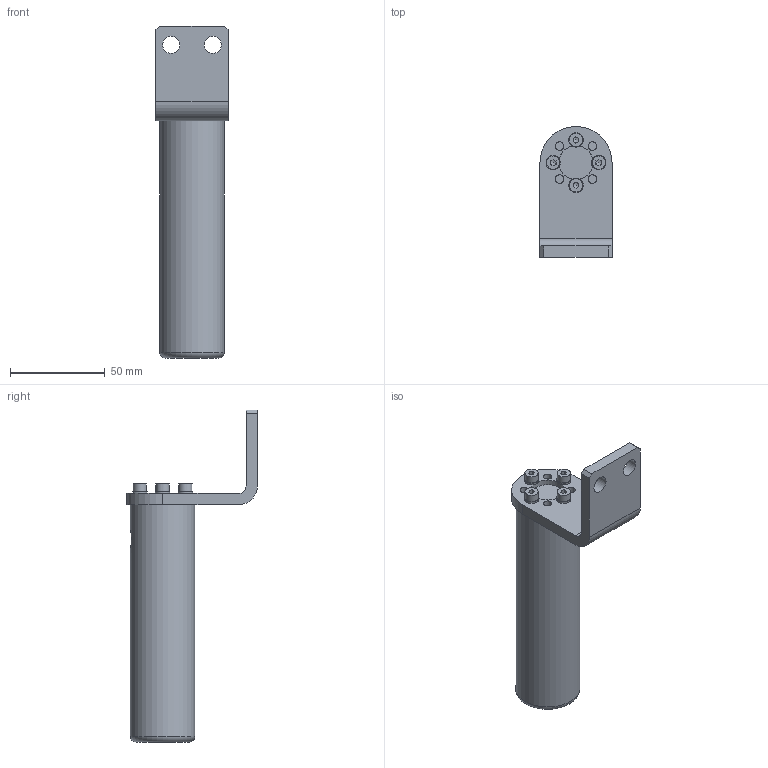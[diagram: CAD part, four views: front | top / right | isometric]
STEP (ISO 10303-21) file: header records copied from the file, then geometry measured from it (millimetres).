
FILE_DESCRIPTION (( 'STEP AP214' ), '1' );
FILE_NAME ('ENRH-SH01.STEP', '2015-03-19T09:11:30', ( '' ), ( '' ), 'SwSTEP 2.0', 'SolidWorks 2012', '' );
FILE_SCHEMA (( 'AUTOMOTIVE_DESIGN' ));
Length unit declared in the file: millimetre
Products named in the file (1): ENRH-SH01
Bounding box: 38 x 69 x 175 mm (x, y, z)
Volume: 136192.3 mm3; surface area: 24071.2 mm2
Topology: 1 solids, 1 shells, 121 faces, 297 edges, 187 vertices
Faces by surface type: plane 93, cylinder 22, cone 5, torus 1
Full cylindrical faces by diameter (mm): 4.5 x4, 5 x1, 7 x4, 8 x1, 9 x2, 18 x1, 34 x1
Entity records: 4066 total; most frequent: CARTESIAN_POINT 647, DIRECTION 586, ORIENTED_EDGE 522, EDGE_CURVE 261, AXIS2_PLACEMENT_3D 210, VERTEX_POINT 171, LINE 166, VECTOR 166
